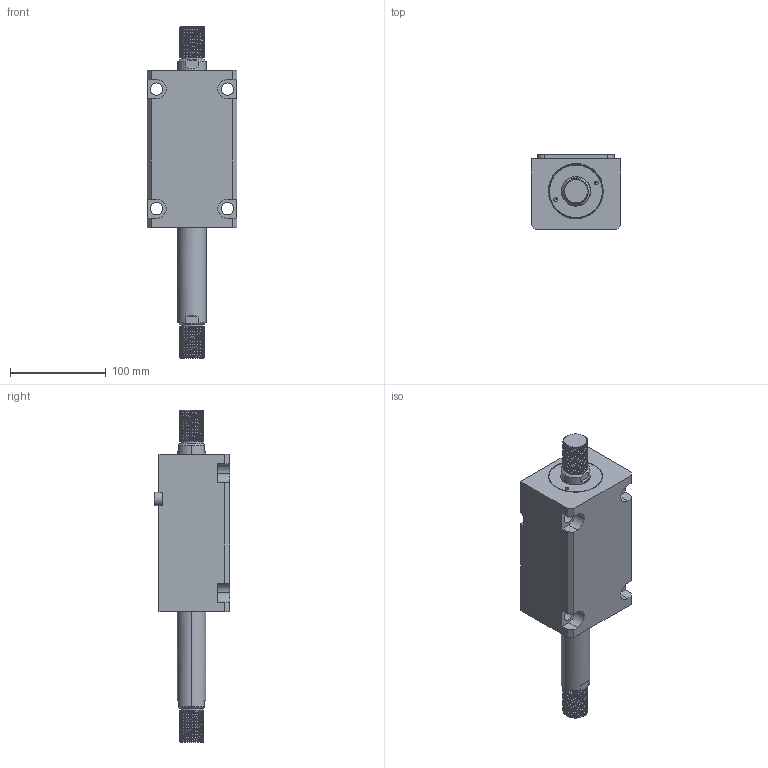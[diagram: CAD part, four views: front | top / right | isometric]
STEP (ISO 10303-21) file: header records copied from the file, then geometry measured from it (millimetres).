
FILE_DESCRIPTION (( 'STEP AP203' ), '1' );
FILE_NAME ('CHTB-LWM50-90W.STEP', '2018-05-22T06:33:25', ( '' ), ( '' ), 'SwSTEP 2.0', 'SolidWorks 2015', '' );
FILE_SCHEMA (( 'CONFIG_CONTROL_DESIGN' ));
Length unit declared in the file: millimetre
Products named in the file (4): CHTM-SDMA50QG; CHTB-LWM50-90W; 活塞杆LWM50-90W; 掛极LWM50-90W
Assembly tree (3 placements, depth 2):
  CHTB-LWM50-90W
    掛极LWM50-90W
    CHTM-SDMA50QG
    活塞杆LWM50-90W
Bounding box: 94 x 79 x 347 mm (x, y, z)
Volume: 1093643.6 mm3; surface area: 160674.4 mm2
Topology: 3 solids, 3 shells, 302 faces, 837 edges, 557 vertices
Faces by surface type: cylinder 188, plane 62, cone 18, bspline 18, torus 16
Entity records: 19248 total; most frequent: CARTESIAN_POINT 11864, ORIENTED_EDGE 1666, DIRECTION 1265, EDGE_CURVE 833, VERTEX_POINT 557, AXIS2_PLACEMENT_3D 483, EDGE_LOOP 338, FACE_OUTER_BOUND 302
